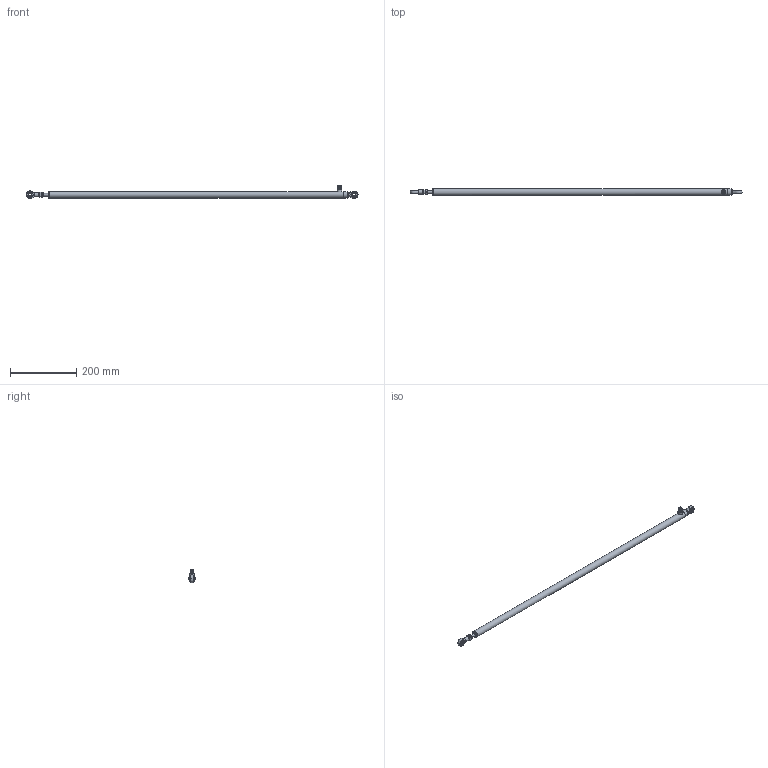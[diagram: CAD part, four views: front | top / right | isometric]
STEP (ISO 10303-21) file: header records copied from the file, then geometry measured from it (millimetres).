
FILE_DESCRIPTION( ( 'STEP AP203' ), '1' );
FILE_NAME( 'N:/Engineering/CAD_Solid/LVDT/SL/Kunden-3D-Modell/SL400-G-SR.stp', '2011-07-27T14:43:23', ( ' ' ), ( ' ' ), 'XStep 1.0', ' ', ' ' );
FILE_SCHEMA( ( 'CONFIG_CONTROL_DESIGN) ( )' ) );
Length unit declared in the file: metre
Products named in the file (10): 1; 2; 3; 4; 5; 6; 7; 8; 9; 10
Bounding box: 1004.19 x 20 x 40.99 mm (x, y, z)
Volume: 1908.6 mm3; surface area: 76216.8 mm2
Topology: 2 solids, 82 shells, 94 faces, 396 edges, 360 vertices
Faces by surface type: plane 43, cone 22, cylinder 21, bspline 5, sphere 2, torus 1
Full cylindrical faces by diameter (mm): 1.9 x2, 2 x2, 8 x3, 10.5 x1, 12.5 x1, 14 x1, 20 x3
Entity records: 11718 total; most frequent: CARTESIAN_POINT 8534, DIRECTION 576, ORIENTED_EDGE 347, EDGE_CURVE 335, VERTEX_POINT 335, AXIS2_PLACEMENT_3D 246, EDGE_LOOP 150, CIRCLE 145
